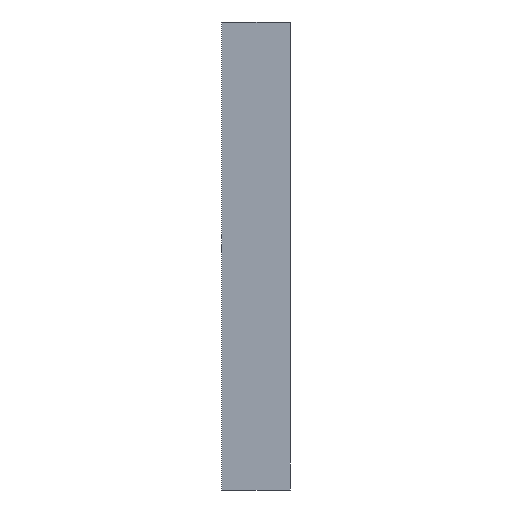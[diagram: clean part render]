
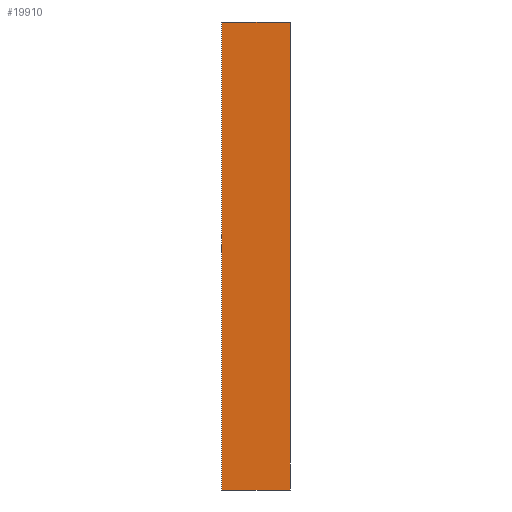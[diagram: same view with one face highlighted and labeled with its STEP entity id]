
A CAD part, left-side view. The second image highlights one B-rep face of the part: STEP entity #19910.
In plain terms, the highlighted planar face has unit normal (-1, 0, 0).
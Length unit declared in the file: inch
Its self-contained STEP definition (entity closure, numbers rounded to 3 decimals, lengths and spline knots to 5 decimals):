
#3844 = DIRECTION ( 'NONE',  ( 0., -1., 0. ) ) ;
#9707 = CARTESIAN_POINT ( 'NONE',  ( -14.64988, 2.6, 8.87988 ) ) ;
#10302 = DIRECTION ( 'NONE',  ( 0., 0., -1. ) ) ;
#13988 = DIRECTION ( 'NONE',  ( 0., 0., -1. ) ) ;
#15196 = CARTESIAN_POINT ( 'NONE',  ( -14.64988, 2.6, 8.87988 ) ) ;
#16532 = CARTESIAN_POINT ( 'NONE',  ( -14.64988, 0., 8.87988 ) ) ;
#17405 = AXIS2_PLACEMENT_3D ( 'NONE', #49015, #60019, #26756 ) ;
#18624 = LINE ( 'NONE', #19605, #46848 ) ;
#19605 = CARTESIAN_POINT ( 'NONE',  ( -14.64988, 0., 8.87988 ) ) ;
#19881 = VERTEX_POINT ( 'NONE', #20497 ) ;
#19910 = ADVANCED_FACE ( 'NONE', ( #64356 ), #20738, .T. ) ;
#20497 = CARTESIAN_POINT ( 'NONE',  ( -14.64988, 2.6, -8.87988 ) ) ;
#20738 = PLANE ( 'NONE',  #17405 ) ;
#20838 = CARTESIAN_POINT ( 'NONE',  ( -14.64988, 2.6, -8.87988 ) ) ;
#20966 = ORIENTED_EDGE ( 'NONE', *, *, #52534, .T. ) ;
#25476 = EDGE_CURVE ( 'NONE', #42066, #39744, #18624, .T. ) ;
#26399 = EDGE_LOOP ( 'NONE', ( #45413, #64428, #20966, #37070 ) ) ;
#26756 = DIRECTION ( 'NONE',  ( 0., 0., 1. ) ) ;
#28769 = CARTESIAN_POINT ( 'NONE',  ( -14.64988, 0., -8.87988 ) ) ;
#30380 = LINE ( 'NONE', #15196, #58093 ) ;
#33950 = LINE ( 'NONE', #20838, #61540 ) ;
#37070 = ORIENTED_EDGE ( 'NONE', *, *, #52522, .T. ) ;
#39744 = VERTEX_POINT ( 'NONE', #28769 ) ;
#42066 = VERTEX_POINT ( 'NONE', #16532 ) ;
#42552 = VECTOR ( 'NONE', #3844, 39.37008 ) ;
#43276 = CARTESIAN_POINT ( 'NONE',  ( -14.64988, 2.6, 8.87988 ) ) ;
#45413 = ORIENTED_EDGE ( 'NONE', *, *, #25476, .F. ) ;
#46848 = VECTOR ( 'NONE', #13988, 39.37008 ) ;
#49015 = CARTESIAN_POINT ( 'NONE',  ( -14.64988, 2.6, 8.87988 ) ) ;
#52522 = EDGE_CURVE ( 'NONE', #19881, #39744, #33950, .T. ) ;
#52534 = EDGE_CURVE ( 'NONE', #57772, #19881, #30380, .T. ) ;
#55838 = EDGE_CURVE ( 'NONE', #57772, #42066, #57104, .T. ) ;
#57104 = LINE ( 'NONE', #43276, #42552 ) ;
#57772 = VERTEX_POINT ( 'NONE', #9707 ) ;
#58093 = VECTOR ( 'NONE', #10302, 39.37008 ) ;
#60019 = DIRECTION ( 'NONE',  ( -1., 0., 0. ) ) ;
#61540 = VECTOR ( 'NONE', #70980, 39.37008 ) ;
#64356 = FACE_OUTER_BOUND ( 'NONE', #26399, .T. ) ;
#64428 = ORIENTED_EDGE ( 'NONE', *, *, #55838, .F. ) ;
#70980 = DIRECTION ( 'NONE',  ( 0., -1., 0. ) ) ;
